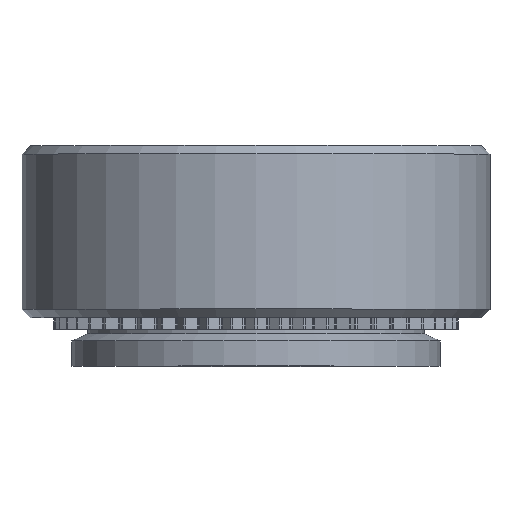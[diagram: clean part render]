
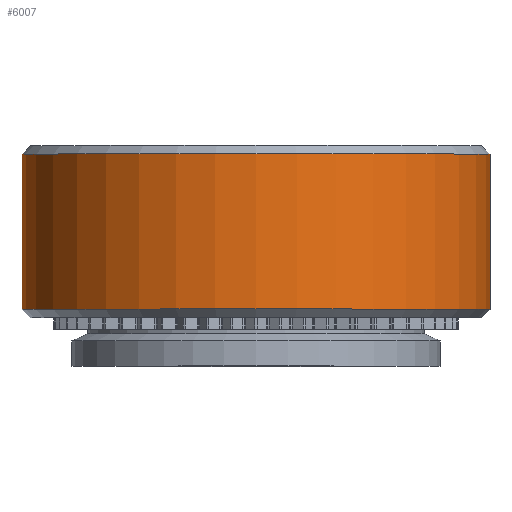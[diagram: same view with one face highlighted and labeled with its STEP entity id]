
A CAD part, top view. The second image highlights one B-rep face of the part: STEP entity #6007.
In plain terms, the highlighted cylindrical face has radius 5.55 mm (diameter 11.1 mm), a full revolution.
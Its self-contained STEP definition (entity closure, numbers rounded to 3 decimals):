
#127=CYLINDRICAL_SURFACE('',#6358,5.55);
#340=FACE_OUTER_BOUND('',#665,.T.);
#665=EDGE_LOOP('',(#4086,#4087,#4088,#4089,#4090,#4091));
#994=LINE('',#9167,#1523);
#1523=VECTOR('',#7127,5.55);
#2051=CIRCLE('',#6355,5.55);
#2052=CIRCLE('',#6356,5.55);
#2054=CIRCLE('',#6359,5.55);
#2055=CIRCLE('',#6360,5.55);
#2482=VERTEX_POINT('',#9155);
#2483=VERTEX_POINT('',#9156);
#2485=VERTEX_POINT('',#9163);
#2486=VERTEX_POINT('',#9164);
#3121=EDGE_CURVE('',#2482,#2483,#2051,.T.);
#3122=EDGE_CURVE('',#2483,#2482,#2052,.T.);
#3125=EDGE_CURVE('',#2485,#2486,#2054,.T.);
#3126=EDGE_CURVE('',#2486,#2485,#2055,.T.);
#3127=EDGE_CURVE('',#2486,#2483,#994,.T.);
#4086=ORIENTED_EDGE('',*,*,#3125,.F.);
#4087=ORIENTED_EDGE('',*,*,#3126,.F.);
#4088=ORIENTED_EDGE('',*,*,#3127,.T.);
#4089=ORIENTED_EDGE('',*,*,#3121,.F.);
#4090=ORIENTED_EDGE('',*,*,#3122,.F.);
#4091=ORIENTED_EDGE('',*,*,#3127,.F.);
#6007=ADVANCED_FACE('',(#340),#127,.T.);
#6355=AXIS2_PLACEMENT_3D('',#9157,#7114,#7115);
#6356=AXIS2_PLACEMENT_3D('',#9158,#7116,#7117);
#6358=AXIS2_PLACEMENT_3D('',#9162,#7121,#7122);
#6359=AXIS2_PLACEMENT_3D('',#9165,#7123,#7124);
#6360=AXIS2_PLACEMENT_3D('',#9166,#7125,#7126);
#7114=DIRECTION('center_axis',(0.,-1.,0.));
#7115=DIRECTION('ref_axis',(1.,0.,0.));
#7116=DIRECTION('center_axis',(0.,-1.,0.));
#7117=DIRECTION('ref_axis',(1.,0.,0.));
#7121=DIRECTION('center_axis',(0.,1.,0.));
#7122=DIRECTION('ref_axis',(-1.,0.,0.));
#7123=DIRECTION('center_axis',(0.,1.,0.));
#7124=DIRECTION('ref_axis',(1.,0.,0.));
#7125=DIRECTION('center_axis',(0.,1.,0.));
#7126=DIRECTION('ref_axis',(1.,0.,0.));
#7127=DIRECTION('',(0.,-1.,0.));
#9155=CARTESIAN_POINT('',(-5.55,1.35,0.));
#9156=CARTESIAN_POINT('',(5.55,1.35,0.));
#9157=CARTESIAN_POINT('Origin',(0.,1.35,0.));
#9158=CARTESIAN_POINT('Origin',(0.,1.35,0.));
#9162=CARTESIAN_POINT('Origin',(0.,3.19,0.));
#9163=CARTESIAN_POINT('',(-5.55,5.03,0.));
#9164=CARTESIAN_POINT('',(5.55,5.03,0.));
#9165=CARTESIAN_POINT('Origin',(0.,5.03,0.));
#9166=CARTESIAN_POINT('Origin',(0.,5.03,0.));
#9167=CARTESIAN_POINT('',(5.55,3.19,0.));
